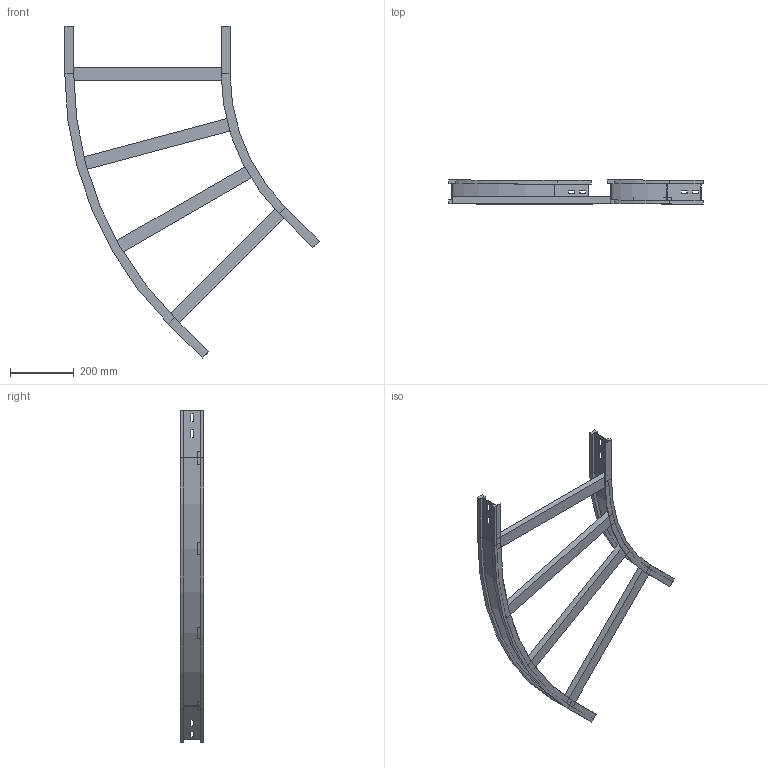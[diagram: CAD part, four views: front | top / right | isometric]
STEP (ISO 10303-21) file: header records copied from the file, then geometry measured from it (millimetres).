
FILE_DESCRIPTION (( 'STEP AP214' ), '1' );
FILE_NAME ('11S6C500.step', '2025-02-21T16:06:17', ( '' ), ( '' ), 'SwSTEP 2.0', 'SolidWorks 2023', '' );
FILE_SCHEMA (( 'AUTOMOTIVE_DESIGN' ));
Length unit declared in the file: millimetre
Products named in the file (4): TRAVERSINO_500; LONGH.INTERNO 45°_H75_R600; LONGH.ESTERNO 45°_H75_R600+500; 11S6C500
Assembly tree (6 placements, depth 2):
  11S6C500
    LONGH.INTERNO 45°_H75_R600
    LONGH.ESTERNO 45°_H75_R600+500
    TRAVERSINO_500  x4
Bounding box: 797.17 x 75 x 1040.25 mm (x, y, z)
Volume: 2561138.4 mm3; surface area: 724203.7 mm2
Topology: 6 solids, 6 shells, 132 faces, 312 edges, 192 vertices
Faces by surface type: plane 120, cylinder 12
Entity records: 3397 total; most frequent: CARTESIAN_POINT 567, ORIENTED_EDGE 552, DIRECTION 546, EDGE_CURVE 276, VECTOR 252, LINE 252, VERTEX_POINT 168, AXIS2_PLACEMENT_3D 147
